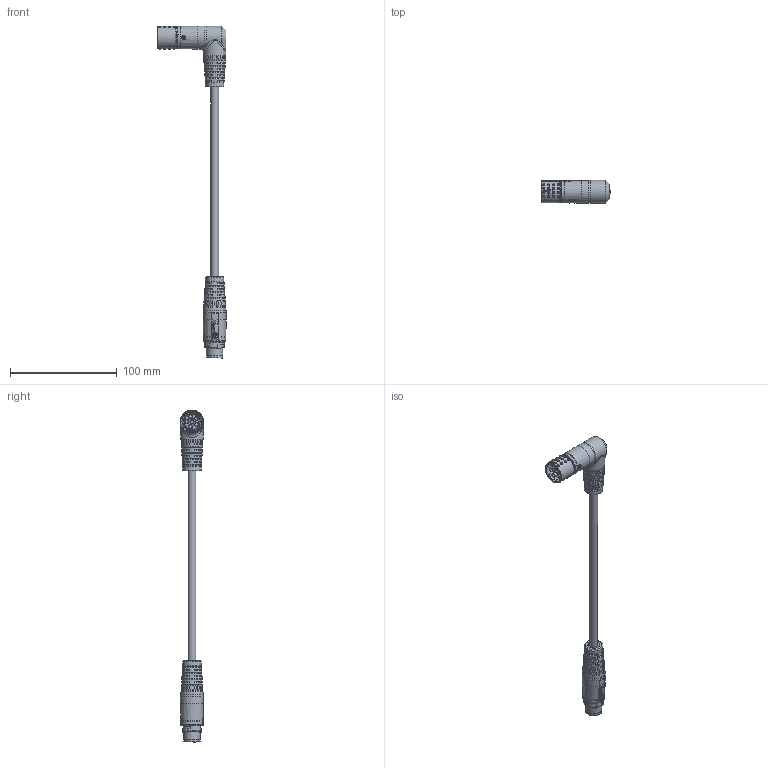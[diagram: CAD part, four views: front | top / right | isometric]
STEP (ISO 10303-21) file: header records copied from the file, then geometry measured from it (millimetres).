
FILE_DESCRIPTION (( 'STEP AP203' ), '1' );
FILE_NAME ('1138005_W-TEC_15K_GLATT-BU-90_R_STEP.STEP', '2023-08-31T13:47:30', ( '' ), ( '' ), 'SwSTEP 2.0', 'SolidWorks 2021', '' );
FILE_SCHEMA (( 'CONFIG_CONTROL_DESIGN' ));
Length unit declared in the file: millimetre
Products named in the file (1): 1138005_W-TEC_15K_GLATT-BU-90_R_STEP
Bounding box: 64.24 x 21.95 x 311.29 mm (x, y, z)
Surface area: 21707.2 mm2 (no closed solid volume)
Topology: 0 solids, 29 shells, 894 faces, 3603 edges, 2542 vertices
Faces by surface type: bspline 376, plane 228, cylinder 216, cone 53, torus 19, sphere 2
Full cylindrical faces by diameter (mm): 1.6 x3, 3.3 x6, 4 x2, 4.2 x3, 4.4 x3, 7.4 x1, 11.1 x3, 15.2 x1, 15.4 x1, 17.384 x1, 17.397 x1, 18.4 x1, 21.038 x1, 21.24 x1, 21.72 x2
Entity records: 61366 total; most frequent: CARTESIAN_POINT 37915, ORIENTED_EDGE 5157, EDGE_CURVE 3417, DIRECTION 3309, VERTEX_POINT 2491, B_SPLINE_CURVE_WITH_KNOTS 1681, AXIS2_PLACEMENT_3D 1201, EDGE_LOOP 1071
